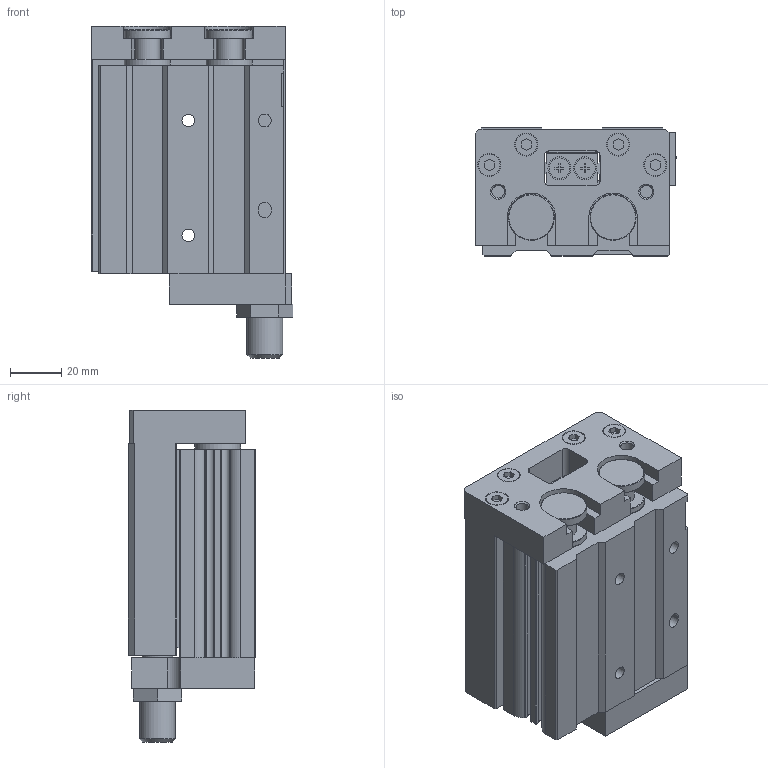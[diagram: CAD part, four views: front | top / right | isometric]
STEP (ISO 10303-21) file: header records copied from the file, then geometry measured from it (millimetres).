
FILE_DESCRIPTION( ( 'STEP AP214' ), '1' );
FILE_NAME( 'C:/Users/EMC02301/Desktop/ELSL图纸/ELSL20X10-S-AF.stp', '2026-08-05T08:11:01', ( 'License CC BY-ND 4.0' ), ( 'CADENAS' ), ' ', 'PARTsolutions', ' ' );
FILE_SCHEMA( ( 'AUTOMOTIVE_DESIGN { 1 0 10303 214 1 1 1 1 }' ) );
Length unit declared in the file: millimetre
Products named in the file (4): ELSL20X10-S-AF(0)(); _ELSL20X10-S-AF(HX-07)(HX-07-1)(0-body); _ELSL20X10-S-AF(0-rod); _FJ-ELSL20-(AF)
Assembly tree (3 placements, depth 2):
  ELSL20X10-S-AF(0)()
    _ELSL20X10-S-AF(HX-07)(HX-07-1)(0-body)
    _ELSL20X10-S-AF(0-rod)
    _FJ-ELSL20-(AF)
Bounding box: 78.97 x 50 x 130 mm (x, y, z)
Volume: 330670 mm3; surface area: 89485.9 mm2
Topology: 3 solids, 3 shells, 510 faces, 1251 edges, 820 vertices
Faces by surface type: plane 388, cylinder 95, cone 27
Full cylindrical faces by diameter (mm): 4.134 x10, 4.917 x8, 5 x2, 5.1 x2, 8 x8, 8.5 x4, 8.6 x4, 9 x16, 10 x6, 11 x4, 12 x1, 14 x1, 18 x6, 20 x4, 23 x2
Entity records: 18426 total; most frequent: CARTESIAN_POINT 2450, DIRECTION 2388, ORIENTED_EDGE 2262, EDGE_CURVE 1131, LINE 902, VECTOR 902, VERTEX_POINT 805, AXIS2_PLACEMENT_3D 743
